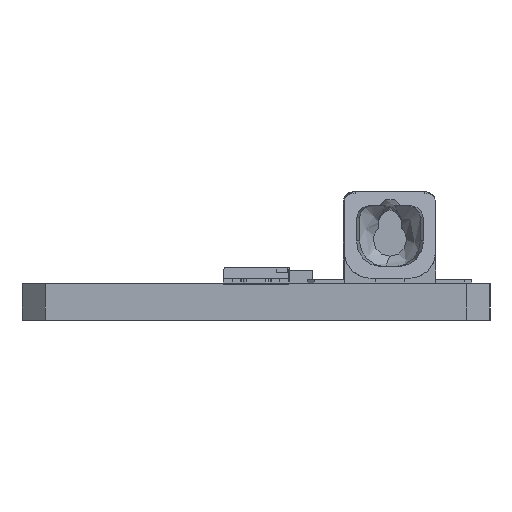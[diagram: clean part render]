
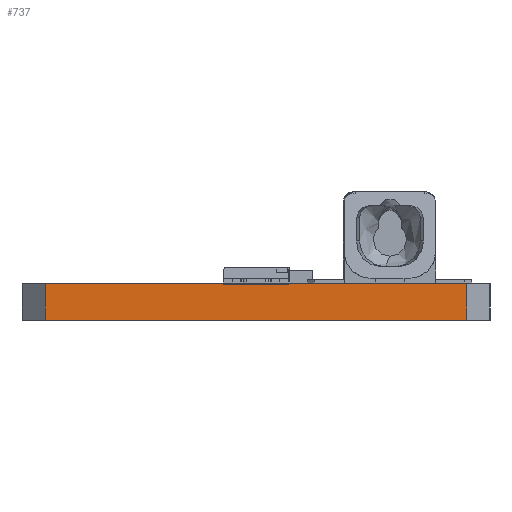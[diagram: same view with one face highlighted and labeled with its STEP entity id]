
A CAD part, left-side view. The second image highlights one B-rep face of the part: STEP entity #737.
In plain terms, the highlighted planar face has unit normal (-1, 0, 0).
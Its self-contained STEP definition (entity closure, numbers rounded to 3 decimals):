
#710 = EDGE_CURVE('',#711,#713,#715,.T.);
#711 = VERTEX_POINT('',#712);
#712 = CARTESIAN_POINT('',(0.,1.,0.));
#713 = VERTEX_POINT('',#714);
#714 = CARTESIAN_POINT('',(0.,1.,1.56));
#715 = LINE('',#716,#717);
#716 = CARTESIAN_POINT('',(0.,1.,0.));
#717 = VECTOR('',#718,1.);
#718 = DIRECTION('',(0.,0.,1.));
#737 = ADVANCED_FACE('',(#738),#763,.F.);
#738 = FACE_BOUND('',#739,.F.);
#739 = EDGE_LOOP('',(#740,#750,#756,#757));
#740 = ORIENTED_EDGE('',*,*,#741,.T.);
#741 = EDGE_CURVE('',#742,#744,#746,.T.);
#742 = VERTEX_POINT('',#743);
#743 = CARTESIAN_POINT('',(0.,19.,0.));
#744 = VERTEX_POINT('',#745);
#745 = CARTESIAN_POINT('',(0.,19.,1.56));
#746 = LINE('',#747,#748);
#747 = CARTESIAN_POINT('',(0.,19.,0.));
#748 = VECTOR('',#749,1.);
#749 = DIRECTION('',(0.,0.,1.));
#750 = ORIENTED_EDGE('',*,*,#751,.T.);
#751 = EDGE_CURVE('',#744,#713,#752,.T.);
#752 = LINE('',#753,#754);
#753 = CARTESIAN_POINT('',(0.,19.,1.56));
#754 = VECTOR('',#755,1.);
#755 = DIRECTION('',(0.,-1.,0.));
#756 = ORIENTED_EDGE('',*,*,#710,.F.);
#757 = ORIENTED_EDGE('',*,*,#758,.F.);
#758 = EDGE_CURVE('',#742,#711,#759,.T.);
#759 = LINE('',#760,#761);
#760 = CARTESIAN_POINT('',(0.,19.,0.));
#761 = VECTOR('',#762,1.);
#762 = DIRECTION('',(0.,-1.,0.));
#763 = PLANE('',#764);
#764 = AXIS2_PLACEMENT_3D('',#765,#766,#767);
#765 = CARTESIAN_POINT('',(0.,19.,0.));
#766 = DIRECTION('',(1.,0.,-0.));
#767 = DIRECTION('',(0.,-1.,0.));
